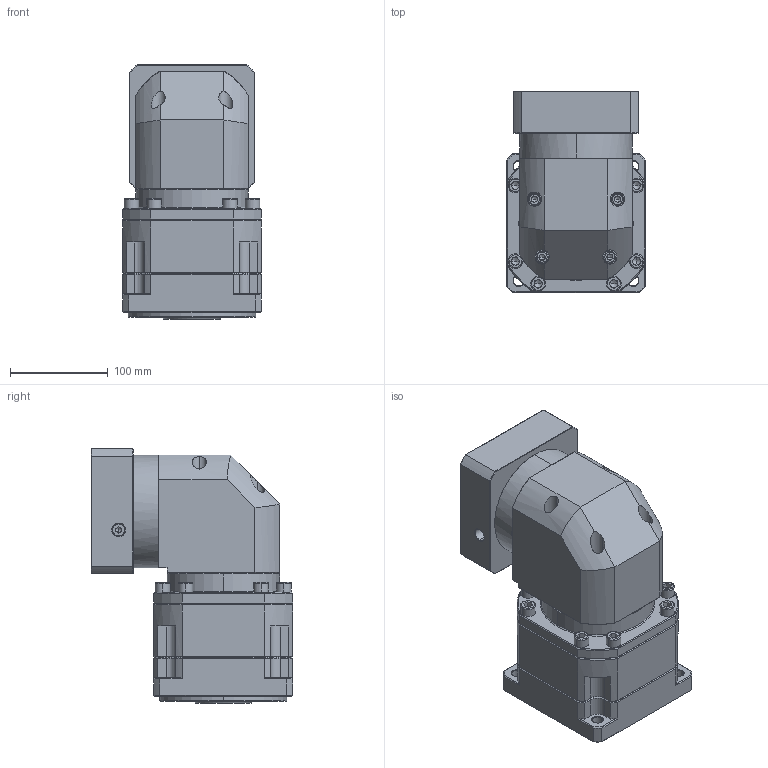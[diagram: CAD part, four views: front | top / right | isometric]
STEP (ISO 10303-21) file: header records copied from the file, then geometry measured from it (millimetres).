
FILE_DESCRIPTION (( 'STEP AP214' ), '1' );
FILE_NAME ('ZBR142A-K35-L2-P2-19-110-145-M8.step', '2023-09-02T08:12:09', ( '' ), ( '' ), 'SwSTEP 2.0', 'SolidWorks 2016', '' );
FILE_SCHEMA (( 'AUTOMOTIVE_DESIGN' ));
Length unit declared in the file: millimetre
Products named in the file (1): ZBR142A-K35-L2-P2-19-110-145-M8
Bounding box: 142 x 205.9 x 260.2 mm (x, y, z)
Volume: 4318931 mm3; surface area: 318769.9 mm2
Topology: 6 solids, 6 shells, 2530 faces, 6576 edges, 4171 vertices
Faces by surface type: plane 1225, cylinder 465, bspline 404, cone 392, torus 44
Entity records: 130403 total; most frequent: CARTESIAN_POINT 43849, ORIENTED_EDGE 13048, DIRECTION 10712, EDGE_CURVE 6524, VECTOR 4214, LINE 4214, VERTEX_POINT 4171, AXIS2_PLACEMENT_3D 3249
